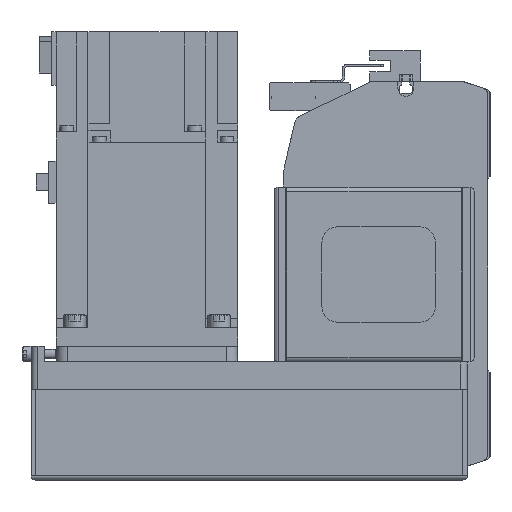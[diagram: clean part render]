
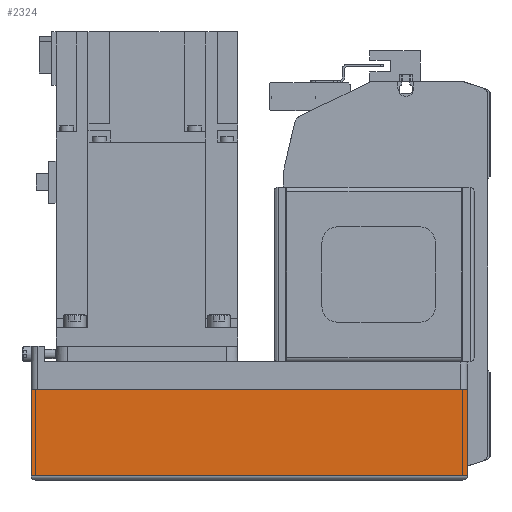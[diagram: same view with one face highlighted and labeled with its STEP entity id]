
A CAD part, left-side view. The second image highlights one B-rep face of the part: STEP entity #2324.
In plain terms, the highlighted planar face has unit normal (-1, 0, 0) as drawn and (0, -1, 0) by its records, which use the part's own axes.
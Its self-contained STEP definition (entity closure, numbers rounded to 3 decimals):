
#2324 = ADVANCED_FACE( '', ( #5139 ), #5140, .T. );
#5139 = FACE_OUTER_BOUND( '', #8447, .T. );
#5140 = PLANE( '', #8448 );
#8447 = EDGE_LOOP( '', ( #15010, #15011, #15012, #15013 ) );
#8448 = AXIS2_PLACEMENT_3D( '', #15014, #15015, #15016 );
#15010 = ORIENTED_EDGE( '', *, *, #19525, .F. );
#15011 = ORIENTED_EDGE( '', *, *, #20943, .F. );
#15012 = ORIENTED_EDGE( '', *, *, #20963, .T. );
#15013 = ORIENTED_EDGE( '', *, *, #21411, .T. );
#15014 = CARTESIAN_POINT( '', ( -192., -40., -12.1 ) );
#15015 = DIRECTION( '', ( 0., -1., 0. ) );
#15016 = DIRECTION( '', ( 0., 0., -1. ) );
#19525 = EDGE_CURVE( '', #23546, #23547, #23548, .T. );
#20943 = EDGE_CURVE( '', #25792, #23546, #25793, .T. );
#20963 = EDGE_CURVE( '', #25792, #25817, #25819, .T. );
#21411 = EDGE_CURVE( '', #25817, #23547, #26436, .T. );
#23546 = VERTEX_POINT( '', #29410 );
#23547 = VERTEX_POINT( '', #29411 );
#23548 = LINE( '', #29412, #29413 );
#25792 = VERTEX_POINT( '', #32610 );
#25793 = LINE( '', #32611, #32612 );
#25817 = VERTEX_POINT( '', #32648 );
#25819 = LINE( '', #32651, #32652 );
#26436 = LINE( '', #33642, #33643 );
#29410 = CARTESIAN_POINT( '', ( 0., -40., -12.1 ) );
#29411 = CARTESIAN_POINT( '', ( 0., -40., -50. ) );
#29412 = CARTESIAN_POINT( '', ( 0., -40., -12.1 ) );
#29413 = VECTOR( '', #36092, 1000. );
#32610 = CARTESIAN_POINT( '', ( -192., -40., -12.1 ) );
#32611 = CARTESIAN_POINT( '', ( -192., -40., -12.1 ) );
#32612 = VECTOR( '', #37902, 1000. );
#32648 = CARTESIAN_POINT( '', ( -192., -40., -50. ) );
#32651 = CARTESIAN_POINT( '', ( -192., -40., -12.1 ) );
#32652 = VECTOR( '', #37919, 1000. );
#33642 = CARTESIAN_POINT( '', ( -192., -40., -50. ) );
#33643 = VECTOR( '', #38419, 1000. );
#36092 = DIRECTION( '', ( 0., 0., -1. ) );
#37902 = DIRECTION( '', ( 1., 0., 0. ) );
#37919 = DIRECTION( '', ( 0., 0., -1. ) );
#38419 = DIRECTION( '', ( 1., 0., 0. ) );
